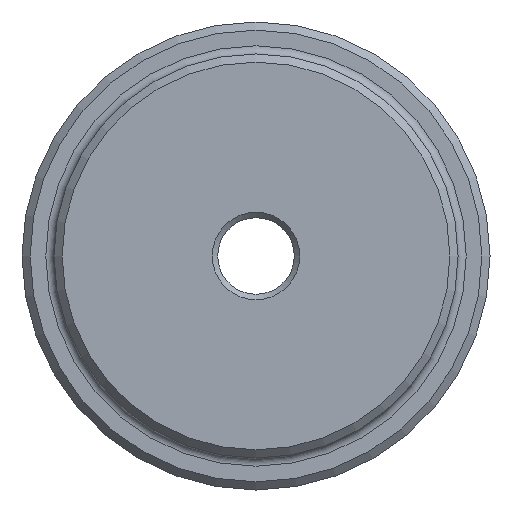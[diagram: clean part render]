
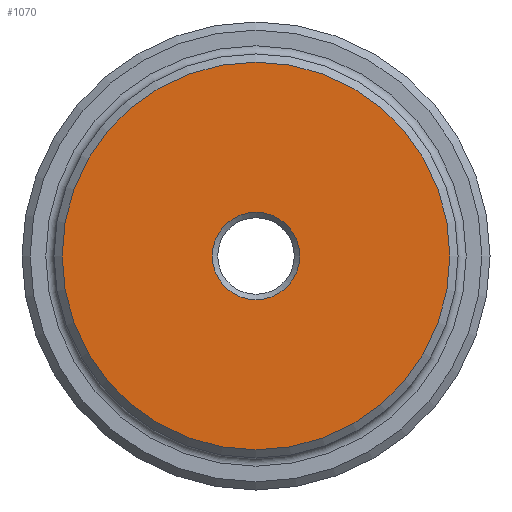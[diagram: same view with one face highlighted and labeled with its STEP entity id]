
A CAD part, left-side view. The second image highlights one B-rep face of the part: STEP entity #1070.
In plain terms, the highlighted planar face has unit normal (-1, 0, 0).
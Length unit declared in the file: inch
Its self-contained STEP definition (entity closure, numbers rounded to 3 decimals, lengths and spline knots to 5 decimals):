
#63 = ORIENTED_EDGE ( 'NONE', *, *, #939, .T. ) ;
#105 = CARTESIAN_POINT ( 'NONE',  ( 0., 0., -0.3214 ) ) ;
#113 = CARTESIAN_POINT ( 'NONE',  ( 0., 0., 0. ) ) ;
#238 = CIRCLE ( 'NONE', #1298, 1.425 ) ;
#323 = DIRECTION ( 'NONE',  ( -1., 0., 0. ) ) ;
#358 = CIRCLE ( 'NONE', #1545, 0.3214 ) ;
#530 = EDGE_LOOP ( 'NONE', ( #1239 ) ) ;
#574 = DIRECTION ( 'NONE',  ( 0., 0., -1. ) ) ;
#648 = VERTEX_POINT ( 'NONE', #1687 ) ;
#657 = EDGE_LOOP ( 'NONE', ( #63 ) ) ;
#848 = DIRECTION ( 'NONE',  ( 0., 0., -1. ) ) ;
#859 = DIRECTION ( 'NONE',  ( 0., 0., -1. ) ) ;
#918 = VERTEX_POINT ( 'NONE', #105 ) ;
#931 = PLANE ( 'NONE',  #1123 ) ;
#939 = EDGE_CURVE ( 'NONE', #648, #648, #238, .T. ) ;
#970 = FACE_BOUND ( 'NONE', #530, .T. ) ;
#1044 = CARTESIAN_POINT ( 'NONE',  ( 0., 0., 0. ) ) ;
#1070 = ADVANCED_FACE ( 'NONE', ( #970, #1667 ), #931, .F. ) ;
#1111 = CARTESIAN_POINT ( 'NONE',  ( 0., 0., 0. ) ) ;
#1123 = AXIS2_PLACEMENT_3D ( 'NONE', #113, #1528, #859 ) ;
#1239 = ORIENTED_EDGE ( 'NONE', *, *, #1346, .T. ) ;
#1298 = AXIS2_PLACEMENT_3D ( 'NONE', #1111, #323, #848 ) ;
#1346 = EDGE_CURVE ( 'NONE', #918, #918, #358, .T. ) ;
#1501 = DIRECTION ( 'NONE',  ( 1., 0., 0. ) ) ;
#1528 = DIRECTION ( 'NONE',  ( 1., 0., 0. ) ) ;
#1545 = AXIS2_PLACEMENT_3D ( 'NONE', #1044, #1501, #574 ) ;
#1667 = FACE_OUTER_BOUND ( 'NONE', #657, .T. ) ;
#1687 = CARTESIAN_POINT ( 'NONE',  ( 0., 0., -1.425 ) ) ;
